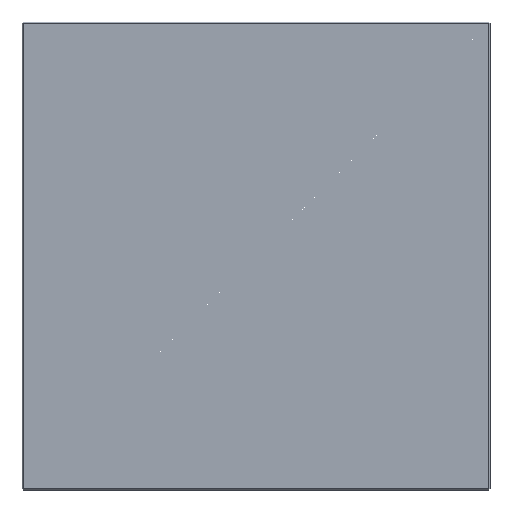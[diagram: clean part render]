
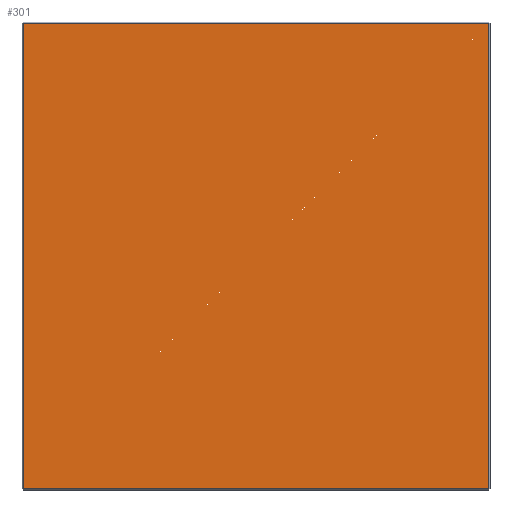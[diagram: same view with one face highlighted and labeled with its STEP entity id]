
A CAD part, front view. The second image highlights one B-rep face of the part: STEP entity #301.
In plain terms, the highlighted planar face has unit normal (0, -1, 0).
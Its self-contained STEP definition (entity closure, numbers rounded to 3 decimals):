
#2 = DIRECTION ( 'NONE',  ( 0., 0., 1. ) ) ;
#14 = FACE_OUTER_BOUND ( 'NONE', #612, .T. ) ;
#41 = VECTOR ( 'NONE', #555, 1000. ) ;
#42 = EDGE_CURVE ( 'NONE', #444, #223, #410, .T. ) ;
#69 = CARTESIAN_POINT ( 'NONE',  ( -172., 0., 172. ) ) ;
#96 = CARTESIAN_POINT ( 'NONE',  ( -172., 0., -172. ) ) ;
#102 = LINE ( 'NONE', #400, #291 ) ;
#163 = ORIENTED_EDGE ( 'NONE', *, *, #289, .T. ) ;
#187 = DIRECTION ( 'NONE',  ( 1., 0., 0. ) ) ;
#211 = EDGE_CURVE ( 'NONE', #558, #444, #382, .T. ) ;
#223 = VERTEX_POINT ( 'NONE', #368 ) ;
#250 = AXIS2_PLACEMENT_3D ( 'NONE', #371, #481, #302 ) ;
#271 = EDGE_CURVE ( 'NONE', #426, #558, #516, .T. ) ;
#273 = CARTESIAN_POINT ( 'NONE',  ( 172., 0., 0. ) ) ;
#289 = EDGE_CURVE ( 'NONE', #223, #426, #102, .T. ) ;
#291 = VECTOR ( 'NONE', #551, 1000. ) ;
#301 = ADVANCED_FACE ( 'NONE', ( #14 ), #561, .F. ) ;
#302 = DIRECTION ( 'NONE',  ( 0., 0., 1. ) ) ;
#340 = VECTOR ( 'NONE', #2, 1000. ) ;
#368 = CARTESIAN_POINT ( 'NONE',  ( 172., 0., 172. ) ) ;
#371 = CARTESIAN_POINT ( 'NONE',  ( 0., 0., 0. ) ) ;
#382 = LINE ( 'NONE', #557, #530 ) ;
#400 = CARTESIAN_POINT ( 'NONE',  ( 0., 0., 172. ) ) ;
#410 = LINE ( 'NONE', #273, #340 ) ;
#426 = VERTEX_POINT ( 'NONE', #69 ) ;
#444 = VERTEX_POINT ( 'NONE', #627 ) ;
#449 = CARTESIAN_POINT ( 'NONE',  ( -172., 0., 0. ) ) ;
#481 = DIRECTION ( 'NONE',  ( 0., 1., 0. ) ) ;
#491 = ORIENTED_EDGE ( 'NONE', *, *, #211, .T. ) ;
#516 = LINE ( 'NONE', #449, #41 ) ;
#530 = VECTOR ( 'NONE', #187, 1000. ) ;
#540 = ORIENTED_EDGE ( 'NONE', *, *, #42, .T. ) ;
#551 = DIRECTION ( 'NONE',  ( -1., 0., 0. ) ) ;
#555 = DIRECTION ( 'NONE',  ( 0., 0., -1. ) ) ;
#557 = CARTESIAN_POINT ( 'NONE',  ( 0., 0., -172. ) ) ;
#558 = VERTEX_POINT ( 'NONE', #96 ) ;
#561 = PLANE ( 'NONE',  #250 ) ;
#612 = EDGE_LOOP ( 'NONE', ( #540, #163, #642, #491 ) ) ;
#627 = CARTESIAN_POINT ( 'NONE',  ( 172., 0., -172. ) ) ;
#642 = ORIENTED_EDGE ( 'NONE', *, *, #271, .T. ) ;
